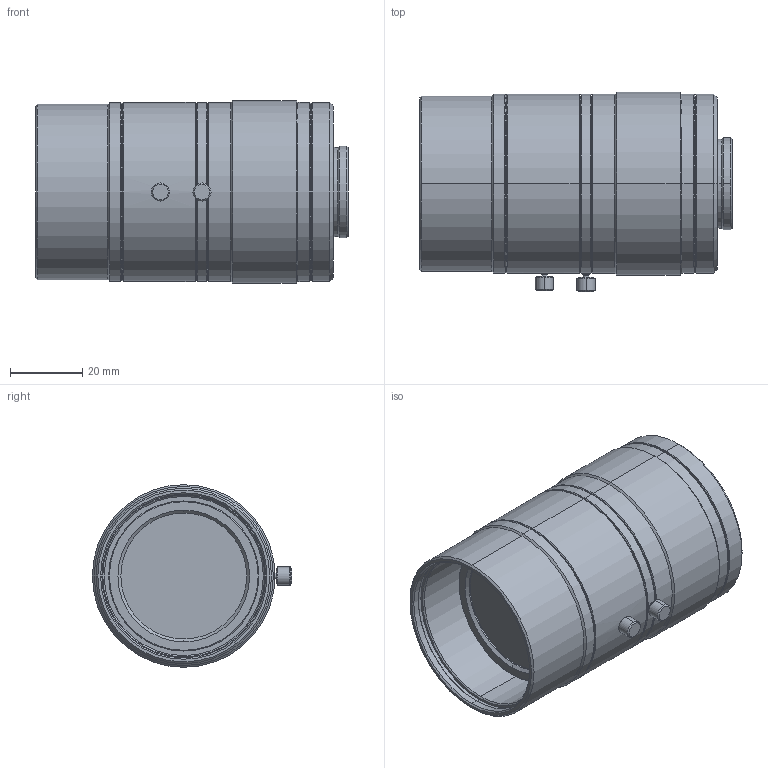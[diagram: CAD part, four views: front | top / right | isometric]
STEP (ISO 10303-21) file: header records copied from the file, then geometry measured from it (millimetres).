
FILE_DESCRIPTION (( 'STEP AP203' ), '1' );
FILE_NAME ('VS-LLD35.STEP', '2015-07-22T08:46:55', ( 'miura_vst' ), ( '' ), 'SwSTEP 2.0', 'SolidWorks 2015', '' );
FILE_SCHEMA (( 'CONFIG_CONTROL_DESIGN' ));
Length unit declared in the file: millimetre
Products named in the file (1): VS-LLD35
Bounding box: 86.47 x 55.05 x 50.5 mm (x, y, z)
Volume: 130447.9 mm3; surface area: 24814.8 mm2
Topology: 1 solids, 1 shells, 149 faces, 298 edges, 173 vertices
Faces by surface type: cone 74, cylinder 50, plane 23, sphere 2
Entity records: 3979 total; most frequent: DIRECTION 764, CARTESIAN_POINT 685, ORIENTED_EDGE 596, AXIS2_PLACEMENT_3D 320, EDGE_CURVE 298, VERTEX_POINT 173, EDGE_LOOP 171, CIRCLE 170
